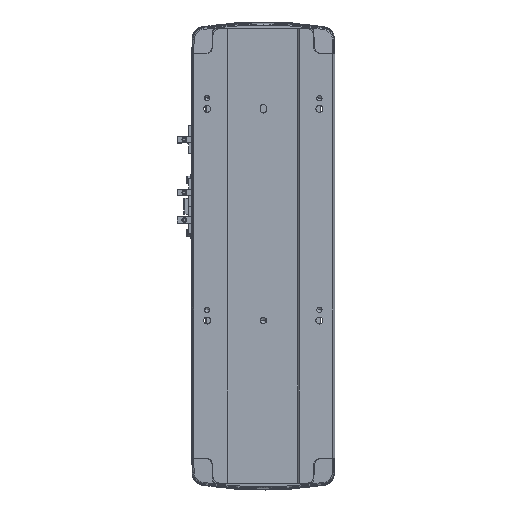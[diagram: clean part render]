
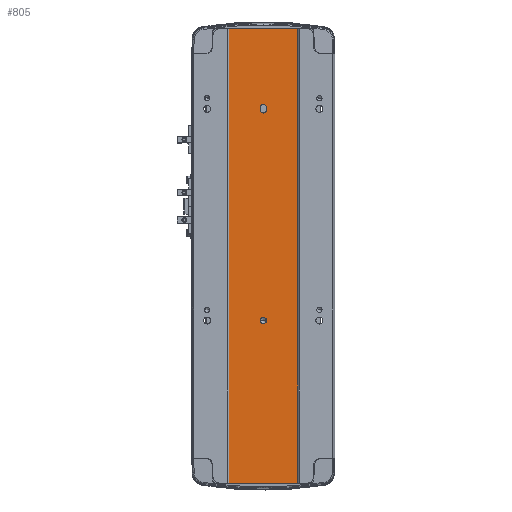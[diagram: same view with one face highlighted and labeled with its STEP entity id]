
A CAD part, top view. The second image highlights one B-rep face of the part: STEP entity #805.
In plain terms, the highlighted planar face has unit normal (0, 0, 1).
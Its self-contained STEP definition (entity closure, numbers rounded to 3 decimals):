
#805 = ADVANCED_FACE ( 'NONE', ( #40194, #21071, #11964 ), #41100, .F. ) ;
#1249 = CARTESIAN_POINT ( 'NONE',  ( 32.5, 0., 35.45 ) ) ;
#1470 = CARTESIAN_POINT ( 'NONE',  ( 0., 354.5, 35.45 ) ) ;
#1502 = VERTEX_POINT ( 'NONE', #3416 ) ;
#1631 = EDGE_CURVE ( 'NONE', #19184, #35334, #33192, .T. ) ;
#3192 = EDGE_CURVE ( 'NONE', #5272, #15737, #20949, .T. ) ;
#3416 = CARTESIAN_POINT ( 'NONE',  ( -32.5, 0., 35.45 ) ) ;
#3531 = ORIENTED_EDGE ( 'NONE', *, *, #3192, .F. ) ;
#4423 = VECTOR ( 'NONE', #9113, 1000. ) ;
#5137 = DIRECTION ( 'NONE',  ( 0., 1., 0. ) ) ;
#5242 = LINE ( 'NONE', #9727, #36712 ) ;
#5272 = VERTEX_POINT ( 'NONE', #24441 ) ;
#5618 = EDGE_CURVE ( 'NONE', #15737, #5272, #33853, .T. ) ;
#5840 = CIRCLE ( 'NONE', #16012, 3. ) ;
#6111 = EDGE_LOOP ( 'NONE', ( #18425, #42602, #35870, #30611 ) ) ;
#6855 = CARTESIAN_POINT ( 'NONE',  ( -32.5, 429., 35.45 ) ) ;
#7531 = EDGE_CURVE ( 'NONE', #37230, #41830, #25736, .T. ) ;
#7779 = CARTESIAN_POINT ( 'NONE',  ( 32.5, 429., 35.45 ) ) ;
#8089 = ORIENTED_EDGE ( 'NONE', *, *, #5618, .F. ) ;
#8314 = CARTESIAN_POINT ( 'NONE',  ( 3., 352.5, 35.45 ) ) ;
#8802 = EDGE_CURVE ( 'NONE', #37230, #1502, #37569, .T. ) ;
#9113 = DIRECTION ( 'NONE',  ( 0., -1., 0. ) ) ;
#9532 = CARTESIAN_POINT ( 'NONE',  ( -32.5, 429., 35.45 ) ) ;
#9727 = CARTESIAN_POINT ( 'NONE',  ( -32.5, 0., 35.45 ) ) ;
#10005 = VECTOR ( 'NONE', #21533, 1000. ) ;
#11496 = DIRECTION ( 'NONE',  ( 1., 0., 0. ) ) ;
#11964 = FACE_OUTER_BOUND ( 'NONE', #6111, .T. ) ;
#13597 = CARTESIAN_POINT ( 'NONE',  ( -32.5, 429., 35.45 ) ) ;
#14956 = EDGE_LOOP ( 'NONE', ( #31161, #40376, #24015, #41632 ) ) ;
#15737 = VERTEX_POINT ( 'NONE', #34063 ) ;
#15908 = DIRECTION ( 'NONE',  ( 1., 0., 0. ) ) ;
#16012 = AXIS2_PLACEMENT_3D ( 'NONE', #18184, #42016, #11496 ) ;
#16197 = DIRECTION ( 'NONE',  ( 0., 0., 1. ) ) ;
#16880 = DIRECTION ( 'NONE',  ( 0., -1., 0. ) ) ;
#17565 = AXIS2_PLACEMENT_3D ( 'NONE', #24988, #25431, #31630 ) ;
#18184 = CARTESIAN_POINT ( 'NONE',  ( 0., 352.5, 35.45 ) ) ;
#18425 = ORIENTED_EDGE ( 'NONE', *, *, #22398, .T. ) ;
#19057 = LINE ( 'NONE', #27877, #10005 ) ;
#19184 = VERTEX_POINT ( 'NONE', #29203 ) ;
#19342 = VECTOR ( 'NONE', #36757, 1000. ) ;
#20782 = DIRECTION ( 'NONE',  ( 0., 0., -1. ) ) ;
#20949 = CIRCLE ( 'NONE', #17565, 3. ) ;
#21071 = FACE_BOUND ( 'NONE', #14956, .T. ) ;
#21533 = DIRECTION ( 'NONE',  ( 0., -1., 0. ) ) ;
#22398 = EDGE_CURVE ( 'NONE', #1502, #33639, #5242, .T. ) ;
#22876 = CARTESIAN_POINT ( 'NONE',  ( -3., 352.5, 35.45 ) ) ;
#23061 = AXIS2_PLACEMENT_3D ( 'NONE', #26168, #16197, #15908 ) ;
#23770 = DIRECTION ( 'NONE',  ( 1., 0., 0. ) ) ;
#24015 = ORIENTED_EDGE ( 'NONE', *, *, #1631, .F. ) ;
#24177 = DIRECTION ( 'NONE',  ( -1., 0., 0. ) ) ;
#24441 = CARTESIAN_POINT ( 'NONE',  ( 3., 153.5, 35.45 ) ) ;
#24988 = CARTESIAN_POINT ( 'NONE',  ( 0., 153.5, 35.45 ) ) ;
#25304 = LINE ( 'NONE', #39513, #43956 ) ;
#25431 = DIRECTION ( 'NONE',  ( 0., 0., 1. ) ) ;
#25736 = LINE ( 'NONE', #9532, #19342 ) ;
#26168 = CARTESIAN_POINT ( 'NONE',  ( 0., 153.5, 35.45 ) ) ;
#26726 = CARTESIAN_POINT ( 'NONE',  ( -3., 352.5, 35.45 ) ) ;
#27344 = AXIS2_PLACEMENT_3D ( 'NONE', #1470, #31550, #35009 ) ;
#27877 = CARTESIAN_POINT ( 'NONE',  ( 32.5, 429., 35.45 ) ) ;
#29203 = CARTESIAN_POINT ( 'NONE',  ( -3., 354.5, 35.45 ) ) ;
#30002 = CIRCLE ( 'NONE', #27344, 3. ) ;
#30611 = ORIENTED_EDGE ( 'NONE', *, *, #8802, .T. ) ;
#31119 = VERTEX_POINT ( 'NONE', #32398 ) ;
#31161 = ORIENTED_EDGE ( 'NONE', *, *, #35098, .F. ) ;
#31550 = DIRECTION ( 'NONE',  ( 0., 0., 1. ) ) ;
#31630 = DIRECTION ( 'NONE',  ( 1., 0., 0. ) ) ;
#31843 = VERTEX_POINT ( 'NONE', #8314 ) ;
#32398 = CARTESIAN_POINT ( 'NONE',  ( 3., 354.5, 35.45 ) ) ;
#33192 = LINE ( 'NONE', #22876, #4423 ) ;
#33639 = VERTEX_POINT ( 'NONE', #1249 ) ;
#33853 = CIRCLE ( 'NONE', #23061, 3. ) ;
#34063 = CARTESIAN_POINT ( 'NONE',  ( -3., 153.5, 35.45 ) ) ;
#34620 = CARTESIAN_POINT ( 'NONE',  ( -32.5, 429., 35.45 ) ) ;
#35009 = DIRECTION ( 'NONE',  ( 1., 0., 0. ) ) ;
#35098 = EDGE_CURVE ( 'NONE', #31843, #31119, #25304, .T. ) ;
#35334 = VERTEX_POINT ( 'NONE', #26726 ) ;
#35870 = ORIENTED_EDGE ( 'NONE', *, *, #7531, .F. ) ;
#36571 = EDGE_CURVE ( 'NONE', #31119, #19184, #30002, .T. ) ;
#36712 = VECTOR ( 'NONE', #23770, 1000. ) ;
#36757 = DIRECTION ( 'NONE',  ( 1., 0., 0. ) ) ;
#36974 = VECTOR ( 'NONE', #16880, 1000. ) ;
#37230 = VERTEX_POINT ( 'NONE', #34620 ) ;
#37569 = LINE ( 'NONE', #6855, #36974 ) ;
#38050 = EDGE_LOOP ( 'NONE', ( #3531, #8089 ) ) ;
#39107 = EDGE_CURVE ( 'NONE', #35334, #31843, #5840, .T. ) ;
#39513 = CARTESIAN_POINT ( 'NONE',  ( 3., 352.5, 35.45 ) ) ;
#40194 = FACE_BOUND ( 'NONE', #38050, .T. ) ;
#40376 = ORIENTED_EDGE ( 'NONE', *, *, #39107, .F. ) ;
#41100 = PLANE ( 'NONE',  #43698 ) ;
#41632 = ORIENTED_EDGE ( 'NONE', *, *, #36571, .F. ) ;
#41729 = EDGE_CURVE ( 'NONE', #41830, #33639, #19057, .T. ) ;
#41830 = VERTEX_POINT ( 'NONE', #7779 ) ;
#42016 = DIRECTION ( 'NONE',  ( 0., 0., 1. ) ) ;
#42602 = ORIENTED_EDGE ( 'NONE', *, *, #41729, .F. ) ;
#43698 = AXIS2_PLACEMENT_3D ( 'NONE', #13597, #20782, #24177 ) ;
#43956 = VECTOR ( 'NONE', #5137, 1000. ) ;
